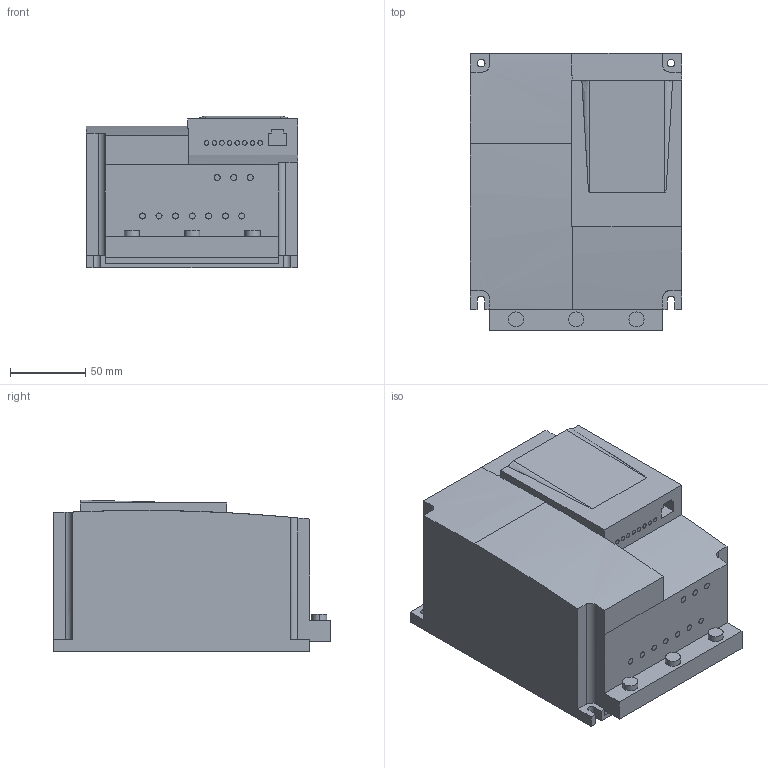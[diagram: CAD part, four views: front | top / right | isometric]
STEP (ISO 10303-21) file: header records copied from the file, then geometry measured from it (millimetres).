
FILE_DESCRIPTION(('STEP AP242'),'1');
FILE_NAME('drive_atv12pu30m3_ew.stp','2021-01-28T13:44:40',('TraceParts'),('TraceParts S.A.'),'Spatial InterOp 3D',' ',' ');
FILE_SCHEMA(('AP242_MANAGED_MODEL_BASED_3D_ENGINEERING_MIM_LF {1 0 10303 442 1 1 4}'));
Length unit declared in the file: millimetre
Products named in the file (1): drive_atv12pu30m3_ew
Bounding box: 140 x 184 x 100.67 mm (x, y, z)
Volume: 2139572.4 mm3; surface area: 110503.5 mm2
Topology: 1 solids, 1 shells, 128 faces, 305 edges, 202 vertices
Faces by surface type: plane 70, cylinder 56, cone 2
Entity records: 4247 total; most frequent: CARTESIAN_POINT 720, DIRECTION 669, ORIENTED_EDGE 610, EDGE_CURVE 305, AXIS2_PLACEMENT_3D 247, VERTEX_POINT 202, LINE 175, VECTOR 175
